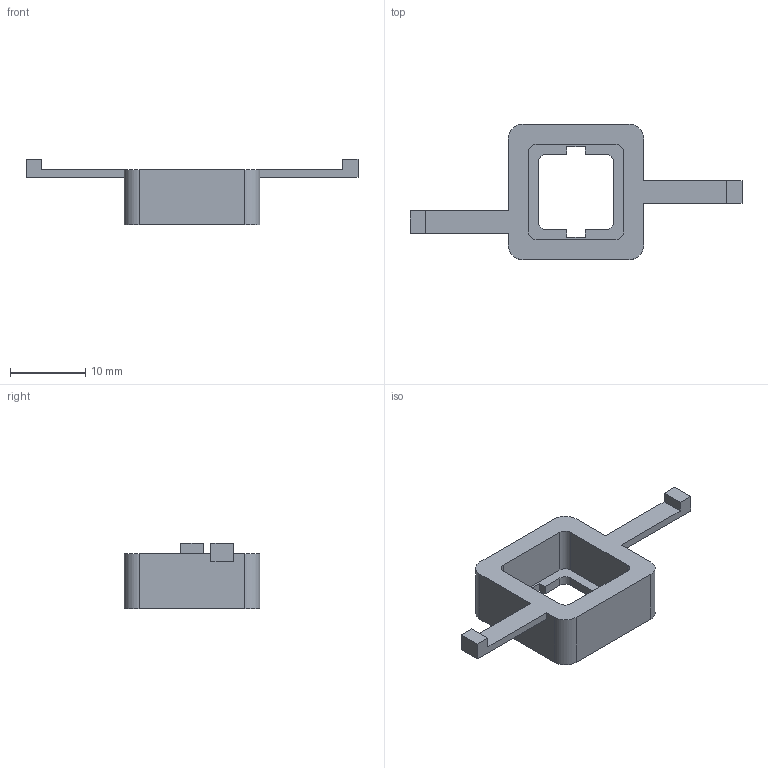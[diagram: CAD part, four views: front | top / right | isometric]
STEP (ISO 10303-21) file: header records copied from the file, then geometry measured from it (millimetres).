
FILE_DESCRIPTION(('Open CASCADE Model'),'2;1');
FILE_NAME('Open CASCADE Shape Model','2026-09-04T14:05:02',('Author'),( 'Open CASCADE'),'Open CASCADE STEP processor 7.7','Open CASCADE 7.7' ,'Unknown');
FILE_SCHEMA(('AUTOMOTIVE_DESIGN { 1 0 10303 214 1 1 1 1 }'));
Length unit declared in the file: millimetre
Products named in the file (1): Open CASCADE STEP translator 7.7 23
Bounding box: 44 x 18 x 8.7 mm (x, y, z)
Volume: 1347 mm3; surface area: 1517.5 mm2
Topology: 1 solids, 1 shells, 47 faces, 132 edges, 88 vertices
Faces by surface type: plane 35, cylinder 12
Entity records: 3179 total; most frequent: CARTESIAN_POINT 629, DIRECTION 439, LINE 275, VECTOR 275, ORIENTED_EDGE 264, PCURVE 264, DEFINITIONAL_REPRESENTATION 264, EDGE_CURVE 132
